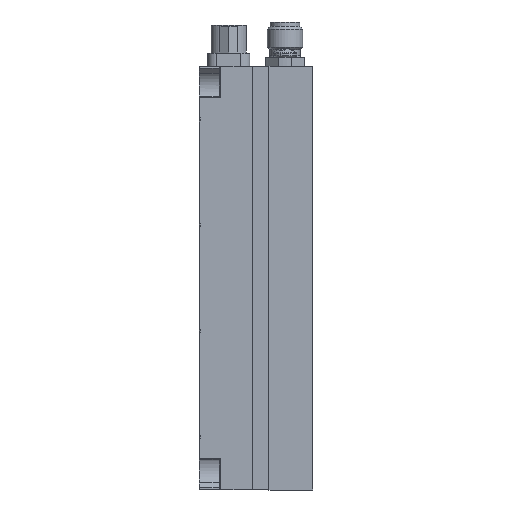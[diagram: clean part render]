
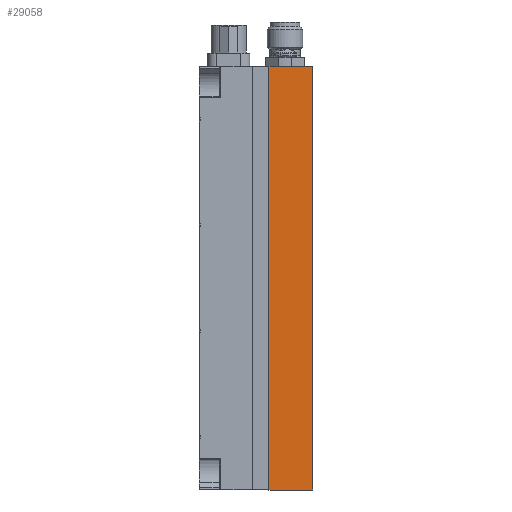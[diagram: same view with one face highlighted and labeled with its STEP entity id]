
A CAD part, left-side view. The second image highlights one B-rep face of the part: STEP entity #29058.
In plain terms, the highlighted planar face has unit normal (-1, 0, 0).
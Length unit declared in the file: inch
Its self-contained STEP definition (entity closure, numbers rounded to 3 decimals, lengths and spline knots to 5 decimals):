
#2016 = DIRECTION ( 'NONE',  ( 0., 0., 1. ) ) ;
#2017 = CARTESIAN_POINT ( 'NONE',  ( -0.9069, 0.1083, -1.51808 ) ) ;
#2518 = EDGE_LOOP ( 'NONE', ( #20097, #20098, #20099, #20100 ) ) ;
#3116 = VERTEX_POINT ( 'NONE', #25479 ) ;
#3580 = EDGE_CURVE ( 'NONE', #9867, #3116, #18210, .T. ) ;
#4349 = CARTESIAN_POINT ( 'NONE',  ( -0.9069, 0.1083, -1.51808 ) ) ;
#4354 = DIRECTION ( 'NONE',  ( 0., -1., 0. ) ) ;
#5815 = AXIS2_PLACEMENT_3D ( 'NONE', #21501, #21517, #21518 ) ;
#8224 = CARTESIAN_POINT ( 'NONE',  ( -0.9069, -0.1997, 1.48192 ) ) ;
#8275 = CARTESIAN_POINT ( 'NONE',  ( -0.9069, 0.1083, -1.51808 ) ) ;
#8363 = CARTESIAN_POINT ( 'NONE',  ( -0.9069, -0.1997, -1.51808 ) ) ;
#9637 = VERTEX_POINT ( 'NONE', #8224 ) ;
#9867 = VERTEX_POINT ( 'NONE', #8275 ) ;
#10047 = VERTEX_POINT ( 'NONE', #8363 ) ;
#12137 = LINE ( 'NONE', #24745, #12139 ) ;
#12139 = VECTOR ( 'NONE', #24746, 39.37008 ) ;
#12158 = LINE ( 'NONE', #24791, #12162 ) ;
#12162 = VECTOR ( 'NONE', #24792, 39.37008 ) ;
#13830 = EDGE_CURVE ( 'NONE', #9867, #10047, #28174, .T. ) ;
#14776 = EDGE_CURVE ( 'NONE', #3116, #9637, #12137, .T. ) ;
#14827 = EDGE_CURVE ( 'NONE', #10047, #9637, #12158, .T. ) ;
#16565 = VECTOR ( 'NONE', #2016, 39.37008 ) ;
#18210 = LINE ( 'NONE', #2017, #16565 ) ;
#20097 = ORIENTED_EDGE ( 'NONE', *, *, #14827, .T. ) ;
#20098 = ORIENTED_EDGE ( 'NONE', *, *, #14776, .F. ) ;
#20099 = ORIENTED_EDGE ( 'NONE', *, *, #3580, .F. ) ;
#20100 = ORIENTED_EDGE ( 'NONE', *, *, #13830, .T. ) ;
#21501 = CARTESIAN_POINT ( 'NONE',  ( -0.9069, 0.1083, -1.51808 ) ) ;
#21502 = PLANE ( 'NONE',  #5815 ) ;
#21517 = DIRECTION ( 'NONE',  ( 1., 0., 0. ) ) ;
#21518 = DIRECTION ( 'NONE',  ( 0., 0., -1. ) ) ;
#22892 = FACE_OUTER_BOUND ( 'NONE', #2518, .T. ) ;
#24745 = CARTESIAN_POINT ( 'NONE',  ( -0.9069, 0.1083, 1.48192 ) ) ;
#24746 = DIRECTION ( 'NONE',  ( 0., -1., 0. ) ) ;
#24791 = CARTESIAN_POINT ( 'NONE',  ( -0.9069, -0.1997, -1.51808 ) ) ;
#24792 = DIRECTION ( 'NONE',  ( 0., 0., 1. ) ) ;
#25479 = CARTESIAN_POINT ( 'NONE',  ( -0.9069, 0.1083, 1.48192 ) ) ;
#28174 = LINE ( 'NONE', #4349, #28180 ) ;
#28180 = VECTOR ( 'NONE', #4354, 39.37008 ) ;
#29058 = ADVANCED_FACE ( 'NONE', ( #22892 ), #21502, .F. ) ;
